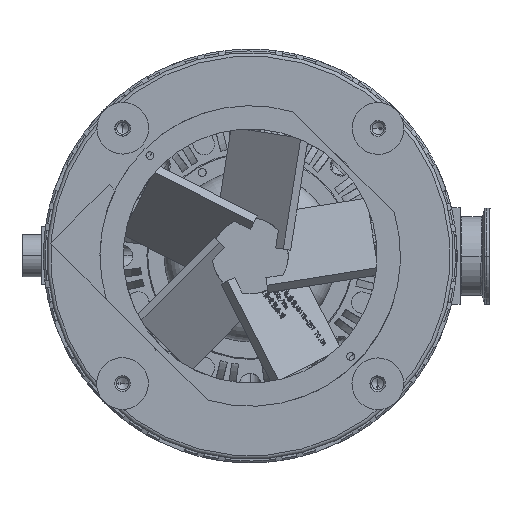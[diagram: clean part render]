
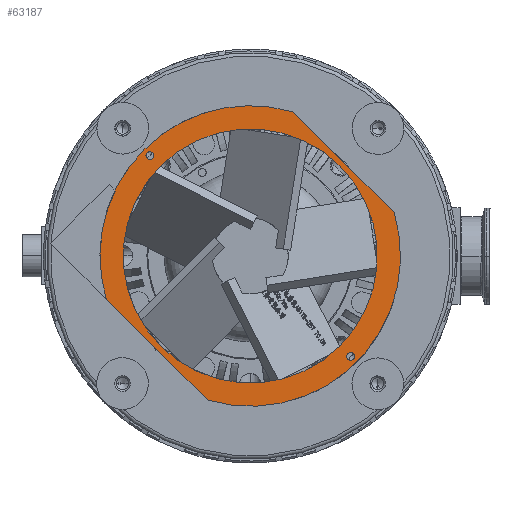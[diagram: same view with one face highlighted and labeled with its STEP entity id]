
A CAD part, front view. The second image highlights one B-rep face of the part: STEP entity #63187.
In plain terms, the highlighted planar face has unit normal (0, -1, 0) as drawn and (0, 0, 1) by its records, which use the part's own axes.
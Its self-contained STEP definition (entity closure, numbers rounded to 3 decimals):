
#1371 = AXIS2_PLACEMENT_3D ( 'NONE', #141807, #44656, #158051 ) ;
#1740 = DIRECTION ( 'NONE',  ( -1., 0., 0. ) ) ;
#5006 = CARTESIAN_POINT ( 'NONE',  ( -85.75, 0., 51. ) ) ;
#5692 = VERTEX_POINT ( 'NONE', #143619 ) ;
#7024 = AXIS2_PLACEMENT_3D ( 'NONE', #19161, #132693, #35517 ) ;
#18932 = VERTEX_POINT ( 'NONE', #177900 ) ;
#19161 = CARTESIAN_POINT ( 'NONE',  ( 81., 0., 51. ) ) ;
#20832 = CIRCLE ( 'NONE', #121929, 72.5 ) ;
#22914 = CARTESIAN_POINT ( 'NONE',  ( 72.5, 0., 51. ) ) ;
#25768 = DIRECTION ( 'NONE',  ( 1., 0., 0. ) ) ;
#27395 = CIRCLE ( 'NONE', #30993, 72.5 ) ;
#28805 = EDGE_CURVE ( 'NONE', #5692, #113966, #20832, .T. ) ;
#30993 = AXIS2_PLACEMENT_3D ( 'NONE', #34748, #148213, #51108 ) ;
#31415 = VERTEX_POINT ( 'NONE', #167011 ) ;
#33346 = CARTESIAN_POINT ( 'NONE',  ( 0., 0., 51. ) ) ;
#34748 = CARTESIAN_POINT ( 'NONE',  ( 0., 0., 51. ) ) ;
#35232 = ORIENTED_EDGE ( 'NONE', *, *, #155325, .T. ) ;
#35517 = DIRECTION ( 'NONE',  ( 1., 0., 0. ) ) ;
#39297 = VERTEX_POINT ( 'NONE', #165094 ) ;
#39595 = FACE_BOUND ( 'NONE', #193464, .T. ) ;
#40877 = CIRCLE ( 'NONE', #171442, 85.75 ) ;
#44596 = VERTEX_POINT ( 'NONE', #107093 ) ;
#44656 = DIRECTION ( 'NONE',  ( 0., 0., -1. ) ) ;
#45209 = VECTOR ( 'NONE', #205513, 1000. ) ;
#48336 = CIRCLE ( 'NONE', #105677, 2.25 ) ;
#48376 = AXIS2_PLACEMENT_3D ( 'NONE', #185496, #90002, #203185 ) ;
#48535 = DIRECTION ( 'NONE',  ( 0., 0., -1. ) ) ;
#49714 = DIRECTION ( 'NONE',  ( -1., 0., 0. ) ) ;
#50336 = ORIENTED_EDGE ( 'NONE', *, *, #146775, .T. ) ;
#51108 = DIRECTION ( 'NONE',  ( 1., 0., 0. ) ) ;
#52388 = CIRCLE ( 'NONE', #73362, 2.25 ) ;
#63187 = ADVANCED_FACE ( 'NONE', ( #206980, #87966, #39595, #163865 ), #137375, .T. ) ;
#63439 = DIRECTION ( 'NONE',  ( 0., 0., -1. ) ) ;
#69091 = AXIS2_PLACEMENT_3D ( 'NONE', #33346, #146849, #49714 ) ;
#73362 = AXIS2_PLACEMENT_3D ( 'NONE', #160509, #63439, #176743 ) ;
#77081 = LINE ( 'NONE', #139252, #120101 ) ;
#78044 = CARTESIAN_POINT ( 'NONE',  ( -78.75, 0., 51. ) ) ;
#81383 = EDGE_CURVE ( 'NONE', #44596, #31415, #96912, .T. ) ;
#82826 = ORIENTED_EDGE ( 'NONE', *, *, #158583, .T. ) ;
#83653 = DIRECTION ( 'NONE',  ( 0., 0., 1. ) ) ;
#87966 = FACE_BOUND ( 'NONE', #197312, .T. ) ;
#90002 = DIRECTION ( 'NONE',  ( 0., 0., 1. ) ) ;
#95883 = CARTESIAN_POINT ( 'NONE',  ( 0., 0., 51. ) ) ;
#96463 = ORIENTED_EDGE ( 'NONE', *, *, #81383, .T. ) ;
#96912 = CIRCLE ( 'NONE', #139402, 85.75 ) ;
#99122 = DIRECTION ( 'NONE',  ( 0., 0., 1. ) ) ;
#101940 = EDGE_CURVE ( 'NONE', #127661, #18932, #48336, .T. ) ;
#101966 = EDGE_LOOP ( 'NONE', ( #204092, #209142 ) ) ;
#103779 = VERTEX_POINT ( 'NONE', #182781 ) ;
#104519 = EDGE_CURVE ( 'NONE', #113966, #5692, #27395, .T. ) ;
#105677 = AXIS2_PLACEMENT_3D ( 'NONE', #145671, #48535, #161961 ) ;
#106221 = EDGE_CURVE ( 'NONE', #18932, #127661, #52388, .T. ) ;
#107093 = CARTESIAN_POINT ( 'NONE',  ( 40.655, -75.5, 51. ) ) ;
#108590 = CARTESIAN_POINT ( 'NONE',  ( 0., 75.5, 51. ) ) ;
#110305 = EDGE_CURVE ( 'NONE', #146664, #122640, #130130, .T. ) ;
#112151 = DIRECTION ( 'NONE',  ( 1., 0., 0. ) ) ;
#112907 = ORIENTED_EDGE ( 'NONE', *, *, #196701, .T. ) ;
#113966 = VERTEX_POINT ( 'NONE', #22914 ) ;
#120101 = VECTOR ( 'NONE', #25768, 1000. ) ;
#121929 = AXIS2_PLACEMENT_3D ( 'NONE', #95883, #209060, #112151 ) ;
#122640 = VERTEX_POINT ( 'NONE', #126026 ) ;
#126026 = CARTESIAN_POINT ( 'NONE',  ( 78.75, 0., 51. ) ) ;
#127661 = VERTEX_POINT ( 'NONE', #78044 ) ;
#130130 = CIRCLE ( 'NONE', #1371, 2.25 ) ;
#131896 = EDGE_CURVE ( 'NONE', #122640, #146664, #189045, .T. ) ;
#132693 = DIRECTION ( 'NONE',  ( 0., 0., -1. ) ) ;
#137375 = PLANE ( 'NONE',  #48376 ) ;
#138648 = ORIENTED_EDGE ( 'NONE', *, *, #28805, .T. ) ;
#139252 = CARTESIAN_POINT ( 'NONE',  ( 0., -75.5, 51. ) ) ;
#139402 = AXIS2_PLACEMENT_3D ( 'NONE', #196033, #99122, #1740 ) ;
#141807 = CARTESIAN_POINT ( 'NONE',  ( 81., 0., 51. ) ) ;
#143619 = CARTESIAN_POINT ( 'NONE',  ( -72.5, 0., 51. ) ) ;
#143807 = EDGE_LOOP ( 'NONE', ( #112907, #96463, #82826, #50336, #35232 ) ) ;
#145671 = CARTESIAN_POINT ( 'NONE',  ( -81., 0., 51. ) ) ;
#146664 = VERTEX_POINT ( 'NONE', #159664 ) ;
#146775 = EDGE_CURVE ( 'NONE', #103779, #185726, #205805, .T. ) ;
#146849 = DIRECTION ( 'NONE',  ( 0., 0., 1. ) ) ;
#148213 = DIRECTION ( 'NONE',  ( 0., 0., -1. ) ) ;
#150011 = ORIENTED_EDGE ( 'NONE', *, *, #104519, .T. ) ;
#155325 = EDGE_CURVE ( 'NONE', #185726, #39297, #40877, .T. ) ;
#158051 = DIRECTION ( 'NONE',  ( 1., 0., 0. ) ) ;
#158583 = EDGE_CURVE ( 'NONE', #31415, #103779, #174533, .T. ) ;
#159664 = CARTESIAN_POINT ( 'NONE',  ( 83.25, 0., 51. ) ) ;
#160509 = CARTESIAN_POINT ( 'NONE',  ( -81., 0., 51. ) ) ;
#161961 = DIRECTION ( 'NONE',  ( 1., 0., 0. ) ) ;
#162617 = ORIENTED_EDGE ( 'NONE', *, *, #106221, .T. ) ;
#163865 = FACE_OUTER_BOUND ( 'NONE', #143807, .T. ) ;
#165094 = CARTESIAN_POINT ( 'NONE',  ( -40.655, -75.5, 51. ) ) ;
#167011 = CARTESIAN_POINT ( 'NONE',  ( 40.655, 75.5, 51. ) ) ;
#171442 = AXIS2_PLACEMENT_3D ( 'NONE', #180536, #83653, #196884 ) ;
#174533 = LINE ( 'NONE', #108590, #45209 ) ;
#176743 = DIRECTION ( 'NONE',  ( 1., 0., 0. ) ) ;
#177900 = CARTESIAN_POINT ( 'NONE',  ( -83.25, 0., 51. ) ) ;
#180536 = CARTESIAN_POINT ( 'NONE',  ( 0., 0., 51. ) ) ;
#182781 = CARTESIAN_POINT ( 'NONE',  ( -40.655, 75.5, 51. ) ) ;
#185496 = CARTESIAN_POINT ( 'NONE',  ( 0., 0., 51. ) ) ;
#185726 = VERTEX_POINT ( 'NONE', #5006 ) ;
#189045 = CIRCLE ( 'NONE', #7024, 2.25 ) ;
#193464 = EDGE_LOOP ( 'NONE', ( #150011, #138648 ) ) ;
#195932 = ORIENTED_EDGE ( 'NONE', *, *, #101940, .T. ) ;
#196033 = CARTESIAN_POINT ( 'NONE',  ( 0., 0., 51. ) ) ;
#196701 = EDGE_CURVE ( 'NONE', #39297, #44596, #77081, .T. ) ;
#196884 = DIRECTION ( 'NONE',  ( -1., 0., 0. ) ) ;
#197312 = EDGE_LOOP ( 'NONE', ( #195932, #162617 ) ) ;
#203185 = DIRECTION ( 'NONE',  ( 1., 0., 0. ) ) ;
#204092 = ORIENTED_EDGE ( 'NONE', *, *, #110305, .T. ) ;
#205513 = DIRECTION ( 'NONE',  ( -1., 0., 0. ) ) ;
#205805 = CIRCLE ( 'NONE', #69091, 85.75 ) ;
#206980 = FACE_BOUND ( 'NONE', #101966, .T. ) ;
#209060 = DIRECTION ( 'NONE',  ( 0., 0., -1. ) ) ;
#209142 = ORIENTED_EDGE ( 'NONE', *, *, #131896, .T. ) ;
